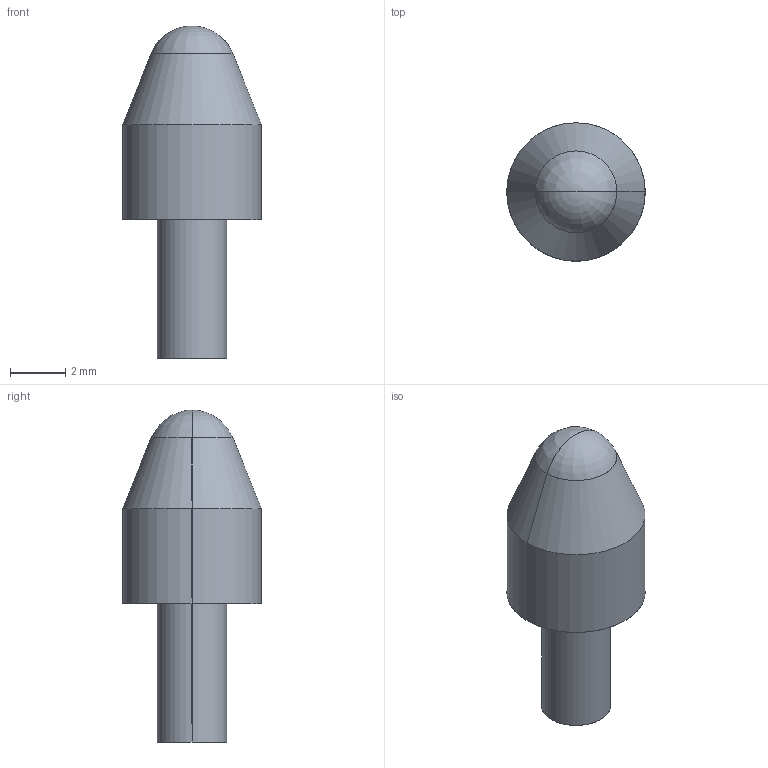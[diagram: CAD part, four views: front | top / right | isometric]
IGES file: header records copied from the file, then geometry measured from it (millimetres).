
Start section: SolidWorks IGES file using analytic representation for surfaces
Global section: file name: C:\Users\panasonic\Desktop\catalog\3d\tr-s10-c\tr-s10-c.IGS; native system: SolidWorks 2014; preprocessor: SolidWorks 2014; author: C0909; date: 161007.104219; units: millimetre
Bounding box: 5 x 5 x 12 mm (x, y, z)
Surface area: 157.4 mm2 (no closed solid volume)
Topology: 0 solids, 0 shells, 10 faces, 128 edges, 126 vertices
Faces by surface type: revolution 8, bspline 2
